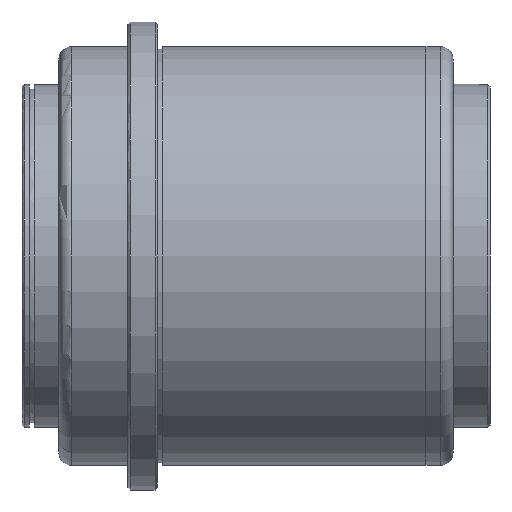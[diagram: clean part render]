
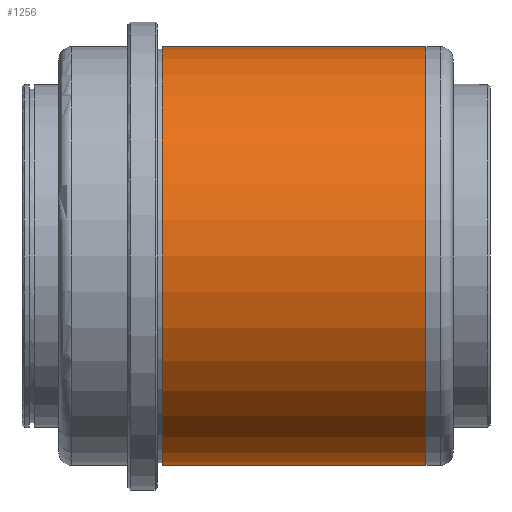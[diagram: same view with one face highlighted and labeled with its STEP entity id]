
A CAD part, front view. The second image highlights one B-rep face of the part: STEP entity #1256.
In plain terms, the highlighted cylindrical face has radius 42.5 mm (diameter 85 mm), a partial arc.
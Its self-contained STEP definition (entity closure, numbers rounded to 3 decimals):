
#1090=CARTESIAN_POINT('Vertex',(74.5,0.,42.5)) ;
#1093=CARTESIAN_POINT('Axis2P3D Location',(74.5,0.,0.)) ;
#1097=CARTESIAN_POINT('Vertex',(74.5,-42.5,0.)) ;
#1100=CARTESIAN_POINT('Axis2P3D Location',(74.5,0.,0.)) ;
#1104=CARTESIAN_POINT('Vertex',(74.5,0.,-42.5)) ;
#1196=CARTESIAN_POINT('Line Origine',(80.,0.,42.5)) ;
#1200=CARTESIAN_POINT('Vertex',(21.,0.,42.5)) ;
#1203=CARTESIAN_POINT('Line Origine',(80.,0.,-42.5)) ;
#1207=CARTESIAN_POINT('Vertex',(21.,0.,-42.5)) ;
#1231=CARTESIAN_POINT('Axis2P3D Location',(80.,0.,0.)) ;
#1236=CARTESIAN_POINT('Axis2P3D Location',(21.,0.,0.)) ;
#1240=CARTESIAN_POINT('Vertex',(21.,-42.5,0.)) ;
#1243=CARTESIAN_POINT('Axis2P3D Location',(21.,0.,0.)) ;
#1094=DIRECTION('Axis2P3D Direction',(1.,0.,-0.)) ;
#1101=DIRECTION('Axis2P3D Direction',(1.,0.,-0.)) ;
#1197=DIRECTION('Vector Direction',(-1.,0.,0.)) ;
#1204=DIRECTION('Vector Direction',(-1.,0.,0.)) ;
#1232=DIRECTION('Axis2P3D Direction',(-1.,-0.,-0.)) ;
#1233=DIRECTION('Axis2P3D XDirection',(0.,0.,-1.)) ;
#1237=DIRECTION('Axis2P3D Direction',(-1.,-0.,-0.)) ;
#1244=DIRECTION('Axis2P3D Direction',(-1.,-0.,-0.)) ;
#1095=AXIS2_PLACEMENT_3D('Circle Axis2P3D',#1093,#1094,$) ;
#1102=AXIS2_PLACEMENT_3D('Circle Axis2P3D',#1100,#1101,$) ;
#1234=AXIS2_PLACEMENT_3D('Cylinder Axis2P3D',#1231,#1232,#1233) ;
#1238=AXIS2_PLACEMENT_3D('Circle Axis2P3D',#1236,#1237,$) ;
#1245=AXIS2_PLACEMENT_3D('Circle Axis2P3D',#1243,#1244,$) ;
#1249=ORIENTED_EDGE('',*,*,#1209,.T.) ;
#1250=ORIENTED_EDGE('',*,*,#1106,.F.) ;
#1251=ORIENTED_EDGE('',*,*,#1099,.F.) ;
#1252=ORIENTED_EDGE('',*,*,#1202,.T.) ;
#1253=ORIENTED_EDGE('',*,*,#1242,.T.) ;
#1254=ORIENTED_EDGE('',*,*,#1247,.T.) ;
#1198=VECTOR('Line Direction',#1197,1.) ;
#1205=VECTOR('Line Direction',#1204,1.) ;
#1256=ADVANCED_FACE('732-63',(#1255),#1235,.T.) ;
#1096=CIRCLE('generated circle',#1095,42.5) ;
#1103=CIRCLE('generated circle',#1102,42.5) ;
#1239=CIRCLE('generated circle',#1238,42.5) ;
#1246=CIRCLE('generated circle',#1245,42.5) ;
#1235=CYLINDRICAL_SURFACE('generated cylinder',#1234,42.5) ;
#1099=EDGE_CURVE('',#1091,#1098,#1096,.T.) ;
#1106=EDGE_CURVE('',#1098,#1105,#1103,.T.) ;
#1202=EDGE_CURVE('',#1091,#1201,#1199,.T.) ;
#1209=EDGE_CURVE('',#1208,#1105,#1206,.F.) ;
#1242=EDGE_CURVE('',#1201,#1241,#1239,.F.) ;
#1247=EDGE_CURVE('',#1241,#1208,#1246,.F.) ;
#1248=EDGE_LOOP('',(#1249,#1250,#1251,#1252,#1253,#1254)) ;
#1255=FACE_OUTER_BOUND('',#1248,.T.) ;
#1199=LINE('Line',#1196,#1198) ;
#1206=LINE('Line',#1203,#1205) ;
#1091=VERTEX_POINT('',#1090) ;
#1098=VERTEX_POINT('',#1097) ;
#1105=VERTEX_POINT('',#1104) ;
#1201=VERTEX_POINT('',#1200) ;
#1208=VERTEX_POINT('',#1207) ;
#1241=VERTEX_POINT('',#1240) ;
